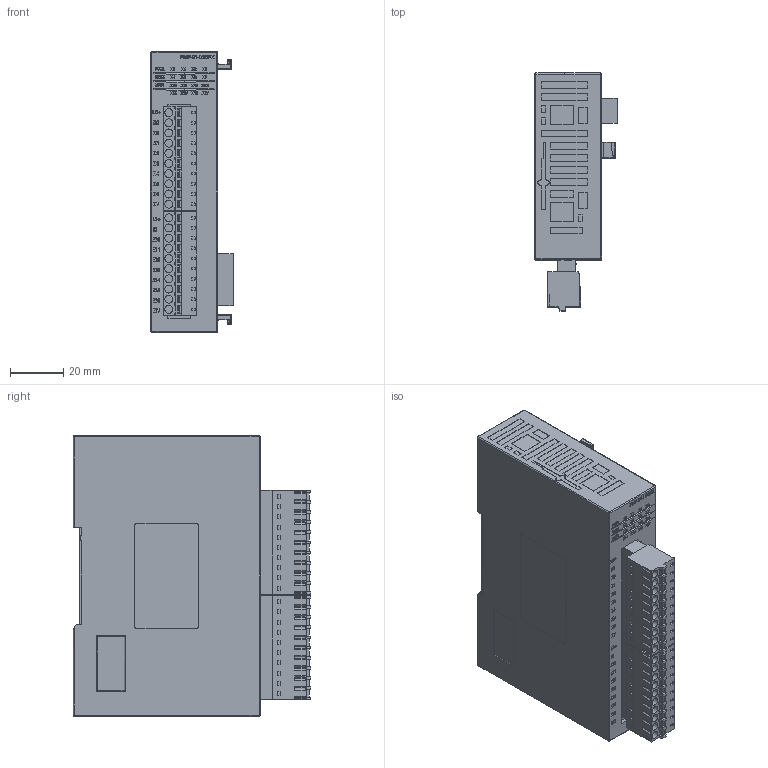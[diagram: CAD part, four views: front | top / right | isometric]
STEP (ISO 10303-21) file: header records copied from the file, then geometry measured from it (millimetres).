
FILE_DESCRIPTION(('STEP AP242'), '1');
FILE_NAME('PMP-01-E16PX', '', ('UNSPECIFIED'), ('UNSPECIFIED'), 'C3D Converter', 'C3D Toolkit', '');
FILE_SCHEMA(('AP242_MANAGED_MODEL_BASED_3D_ENGINEERING_MIM_LF { 1 0 10303 442 1 1 4 }'));
Length unit declared in the file: millimetre
Products named in the file (1): PMP-01-E16PX
Bounding box: 30.8 x 88.99 x 105 mm (x, y, z)
Volume: 195142.1 mm3; surface area: 32172.2 mm2
Topology: 1 solids, 100 shells, 1743 faces, 5721 edges, 4238 vertices
Faces by surface type: plane 1511, cylinder 112, extrusion 94, bspline 26
Full cylindrical faces by diameter (mm): 3 x20
Entity records: 80815 total; most frequent: CARTESIAN_POINT 19463, ORIENTED_EDGE 9986, DIRECTION 7626, EDGE_CURVE 5700, VERTEX_POINT 4238, VECTOR 3952, LINE 3858, EDGE_LOOP 1944
